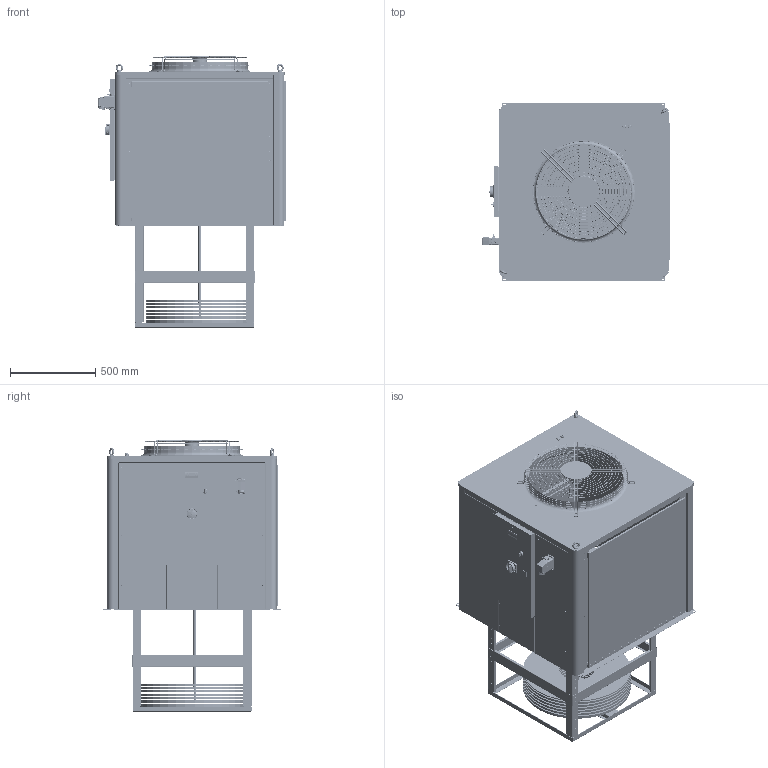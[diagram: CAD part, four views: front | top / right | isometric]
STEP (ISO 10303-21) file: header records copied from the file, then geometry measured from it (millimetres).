
FILE_DESCRIPTION (( 'STEP AP203' ), '1' );
FILE_NAME ('ECIK-200_EVAP_FLAT_R513A_REV00.STEP', '2026-03-24T13:37:08', ( '' ), ( '' ), 'SwSTEP 2.0', 'SolidWorks 2023', '' );
FILE_SCHEMA (( 'CONFIG_CONTROL_DESIGN' ));
Length unit declared in the file: millimetre
Products named in the file (49): 8S-8HP-ICQ-4HP-ICQ-3HP-1P-FB1.5p-____1.5P______-DCF-BK3P-____; CR-K6-00003_001; VR-K6-00008_000; AGITATORE DISCO; VR-K6-00005_000; AEC1022F_RIB8; VR-K6-00006_000; 8S-8HP-ICQ-4HP-ICQ-3HP-1P-______-1.5HP; CR-K6-00002_000; CR-K6-00005_000C; 8S-8HP-ICQ-4HP-ICQ-3HP-1P-1.5HP-____________; morsetto; ECIK-200_EVAP_FLAT_R513A_REV00; VR-K6-00009_001; VR-K6-00007_000; Tappo quadro elettrico_BK_RIB8; CO-EL-00129; 8S-ICQ-8-______; eyebolts gb_GB_FASTENER_SCREWS_FRS M10-N_1; 8S-8HP-FD-__5P________-500____; EV-RA-00036_000_FIGURINO; 8S-ICQ-8-____3; 8S-________; CO-EL-00051; QUADRO K6_RIB8; 8S-8HP-FD-__5P-__________; CR-AG-00021_000; 8S-8HP-FD-20________-IIII-III-II-FB-KG-________; VR-2D-00050_000; 8S-ICQ-8-____2; PG11_PARTE; CR-K6-00005_000; 8S-ICQ-8-____1; TE-EL-00007 - EW_971_230V.STEP_RIB8; 8S-8HP-ICQ-4HP-ICQ-3HP-1P-FB1.5p-____2P______-DCF-BK3P-______(____); 8S-8HP-ICQ-4HP-ICQ-3HP-1P-FB1.5p-____; 8S-III-________T1.5); SE-RR-00025_000_RIB8; ICQ-8J（方形盘管，双面进风）(2); 8S-8HP-ICQ-4HP-FD-____1mm-FB-KG-____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
Assembly tree (74 placements, depth 4):
  ECIK-200_EVAP_FLAT_R513A_REV00
    ICQ-8J（方形盘管，双面进风）(2)
      8S-8HP-FD-__5P-__________
        8S-8HP-FD-__5P________-500____
        8S-8HP-FD-20________-IIII-III-II-FB-KG-________  x2
      8S-8HP-ICQ-4HP-ICQ-3HP-1P-FB1.5p-____1.5P______-DCF-BK3P-____
      8S-8HP-ICQ-4HP-ICQ-3HP-1P-1.5HP-____________  x2
      8S-8HP-ICQ-4HP-ICQ-3HP-1P-1.5HP-____________-1  x2
      8S-8HP-ICQ-4HP-ICQ-3HP-1P-______-1.5HP  x2
      8S-8HP-ICQ-4HP-ICQ-3HP-1P-FB1.5p-____
      8S-ICQ-8-____2
      eyebolts gb_GB_FASTENER_SCREWS_FRS M10-N_1  x2
      8S-8HP-ICQ-4HP-ICQ-3HP-1P-FB1.5p-____2P______-DCF-BK3P-______(____)
      8S-8HP-ICQ-4HP-FD-____1mm-FB-KG-____  x3
      8S-________  x2
      8S-8HP-ICQ-4HP-ICQ-3HP-1P-FB1.5p-____2P______-DCF-BK3P-____  x2
      8S-ICQ-8-______
      8S-III-________T1.5)  x5
      8S-550____
      8S-ICQ-8-____1
      8S-ICQ-8-____3
    VR-K6-00006_000
    VR-K6-00004_001
    VR-K6-00005_000
    VR-K6-00008_000
    VR-K6-00007_000
    VR-K6-00009_001
    QUADRO K6_RIB8
      AEC1022F_RIB8
      DED965FB-6F17-44D8-8B5E-7FBD67AD56EC_3_BK_RIB8
      TE-EL-00007 - EW_971_230V.STEP_RIB8
      SELETTORE_NERO_BK_RIB8
      SE-RR-00025_000_RIB8
      Tappo quadro elettrico_BK_RIB8
    CR-AG-00021_000
    AGITATORE DISCO
    morsetto
    VR-2D-00050_000
    PG11_PARTE  x2
    CO-EL-00129
    CO-EL-00051
    Gabbia telescopica ECIK 300+200_CONTRATTA
      CR-K6-00003_001  x4
      CR-K6-00005_000
        CR-K6-00005_000B  x4
        CR-K6-00005_000C
        CR-K6-00005_000A  x4
      CR-K6-00002_000  x4
    EV-RA-00036_000_FIGURINO
Bounding box: 1107 x 1050 x 1595 mm (x, y, z)
Volume: 36484169.2 mm3; surface area: 21513171.1 mm2
Topology: 92 solids, 195 shells, 5916 faces, 15197 edges, 9399 vertices
Faces by surface type: plane 2732, cylinder 2186, bspline 436, torus 388, cone 174
Entity records: 193249 total; most frequent: CARTESIAN_POINT 75260, ORIENTED_EDGE 23330, DIRECTION 22721, EDGE_CURVE 12014, AXIS2_PLACEMENT_3D 8265, VERTEX_POINT 7506, LINE 6191, VECTOR 6191
